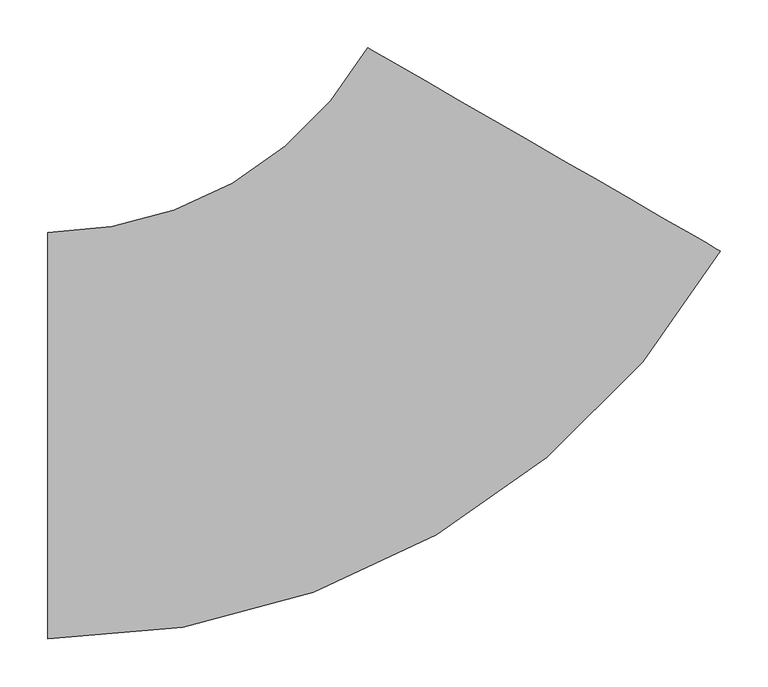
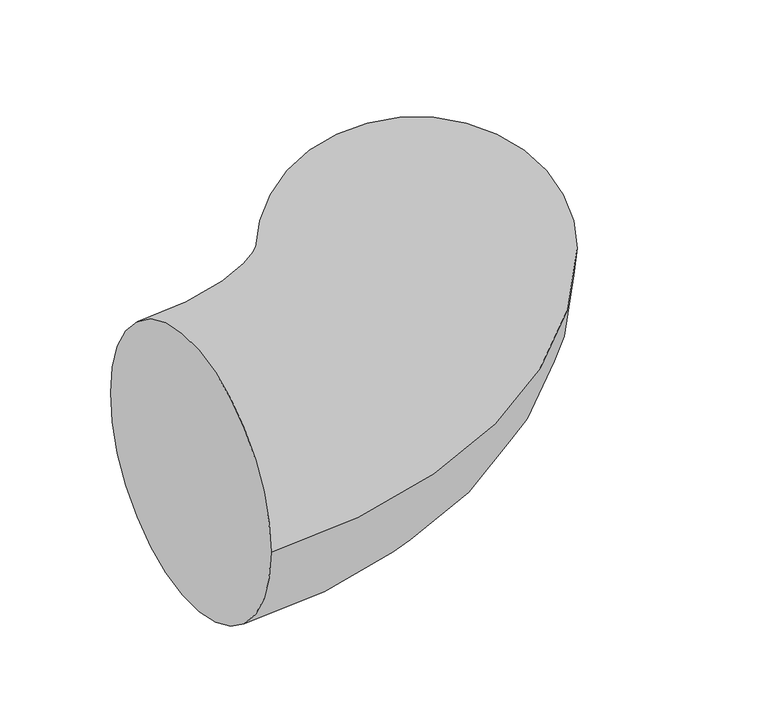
"""IFC4 building model written with IfcOpenShell, lengths in millimetres: pipe fitting geometry, ADSK_ДетальСтальнаяСварная_Отвод_ГОСТ17375-2001 : Исполнение 2."""

from ifc_helpers import new_model, si_unit, point, frame, origin, place, context, project, spatial, circle_curve, ellipse_curve, trimmed, source, transform, mapped, element, save
from ifc_brep_helpers import plane_surface, revolved_surface, advanced_brep


def pipe_fitting_61966ae4(model_context):
    return source(origin(), model_context, "Body", "AdvancedBrep", [
        advanced_brep(
        [(-346.4101615, -213.0, 0.0), (-346.4101615, 213.0, 0.0), (357.6684918, 193.5, 0.0), (-11.2583302, 406.5, 0.0)],
        [
            (0, 1, circle_curve(frame((-346.4101615, 0.0, 0.0), z_axis=(-1.0, 0.0, 0.0), x_axis=(0.0, 1.0, 0.0)), 213.0)),
            (1, 0, circle_curve(frame((-346.4101615, 0.0, 0.0), z_axis=(-1.0, 0.0, 0.0), x_axis=(0.0, 1.0, 0.0)), 213.0)),
            (2, 3, circle_curve(frame((173.2050808, 300.0, 0.0), z_axis=(0.49999999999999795, 0.8660254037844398, 0.0), x_axis=(-0.8660254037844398, 0.49999999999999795, 0.0)), 213.0)),
            (3, 2, circle_curve(frame((173.2050808, 300.0, 0.0), z_axis=(0.49999999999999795, 0.8660254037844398, 0.0), x_axis=(-0.8660254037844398, 0.49999999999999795, 0.0)), 213.0)),
            (3, 1, circle_curve(frame((-346.4101615, 600.0, 0.0), z_axis=(0.0, 0.0, -1.0), x_axis=(0.0, -1.0, 0.0)), 387.0)),
            (0, 2, circle_curve(frame((-346.4101615, 600.0, 0.0), z_axis=(0.0, 0.0, 1.0), x_axis=(0.0, -1.0, 0.0)), 813.0)),
        ],
        [
            plane_surface(frame((-346.4101615, 0.0, 0.0), z_axis=(-1.0, 0.0, 0.0), x_axis=(0.0, 0.0, 1.0))),
            plane_surface(frame((173.2050808, 300.0, 0.0), z_axis=(0.49999999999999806, 0.8660254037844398, 0.0), x_axis=(0.0, 0.0, 1.0))),
            revolved_surface(trimmed(ellipse_curve(frame((-346.4101615, 0.0, 0.0), z_axis=(-1.0, 0.0, 0.0), x_axis=(0.0, 1.0, 0.0)), 213.0, 213.0), [point((-346.4101615, -213.0, 0.0))], [point((-346.4101615, 213.0, 0.0))], True, "CARTESIAN"), (-346.4101615, 600.0, 0.0), (0.0, 0.0, 1.0)),
            revolved_surface(trimmed(ellipse_curve(frame((-346.4101615, 0.0, 0.0), z_axis=(-1.0, 0.0, 0.0), x_axis=(0.0, 1.0, 0.0)), 213.0, 213.0), [point((-346.4101615, 213.0, 0.0))], [point((-346.4101615, -213.0, 0.0))], True, "CARTESIAN"), (-346.4101615, 600.0, 0.0), (0.0, 0.0, 1.0)),
        ],
        [
            (0, [[1, 2]]),
            (1, [[3, 4]]),
            (2, [[5, -1, 6, -4]]),
            (3, [[-6, -2, -5, -3]]),
        ],
    ),
    ])


if __name__ == "__main__":
    model = new_model("IFC4")
    model_context = context("Model", 3, world=origin())
    ifc_project = project(units=[si_unit("LENGTHUNIT", "METRE", prefix="MILLI")], contexts=[model_context])
    site = spatial("IfcSite", under=ifc_project)
    building = spatial("IfcBuilding", under=site)
    placement = place(None, origin())
    pipe_fitting_shape = pipe_fitting_61966ae4(model_context)
    element("IfcPipeFitting", 1, ObjectType="ADSK_ДетальСтальнаяСварная_Отвод_ГОСТ17375-2001 : Исполнение 2", at=placement, inside=building, context=model_context, shape_type="MappedRepresentation", body=[
        mapped(pipe_fitting_shape, transform((0.0, 0.0, 0.0), x_axis=(1.0, 0.0, 0.0), y_axis=(0.0, 1.0, 0.0), z_axis=(0.0, 0.0, 1.0))),
    ])
    save(model, "model.ifc")
